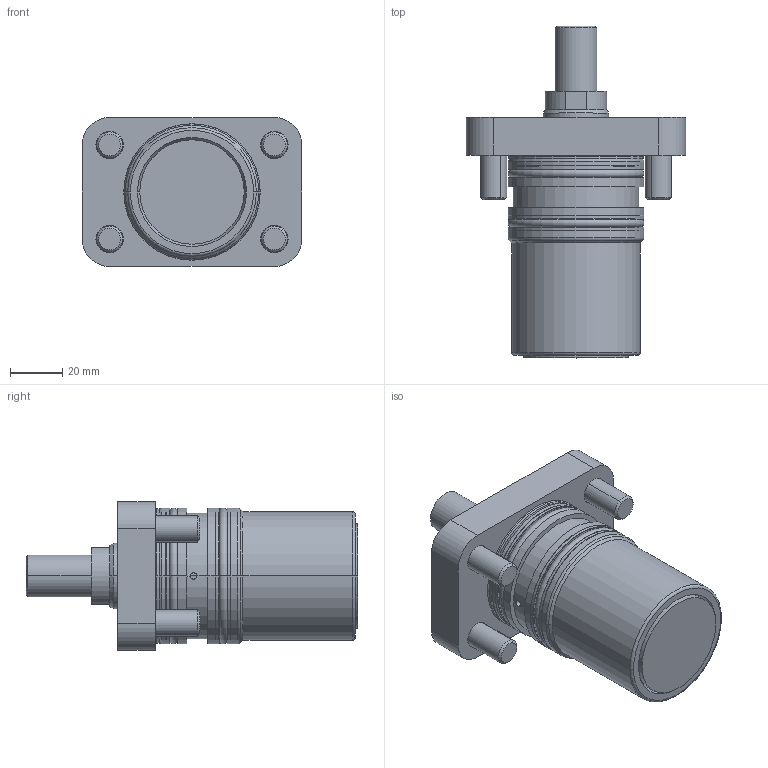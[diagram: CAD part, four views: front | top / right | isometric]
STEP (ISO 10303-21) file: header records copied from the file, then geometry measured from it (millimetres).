
FILE_DESCRIPTION (( 'STEP AP203' ), '1' );
FILE_NAME ('GERMA_Einbauzylinder_210-040-050-A.STEP', '2023-09-07T05:30:05', ( '' ), ( '' ), 'SwSTEP 2.0', 'SolidWorks 2016', '' );
FILE_SCHEMA (( 'CONFIG_CONTROL_DESIGN' ));
Length unit declared in the file: millimetre
Products named in the file (4): DIN7984-M10x25; GERMA_Einbauzylinder_210-040-050-A; Kolben 60x-040_Kolben DU.40-Hub50-AG; Gehaeuse 210-040_Gehaeuse 210-040-050
Assembly tree (6 placements, depth 2):
  GERMA_Einbauzylinder_210-040-050-A
    Gehaeuse 210-040_Gehaeuse 210-040-050
    Kolben 60x-040_Kolben DU.40-Hub50-AG
    DIN7984-M10x25  x4
Bounding box: 84 x 127 x 57 mm (x, y, z)
Volume: 193142.7 mm3; surface area: 56552.8 mm2
Topology: 6 solids, 6 shells, 370 faces, 883 edges, 553 vertices
Faces by surface type: plane 163, bspline 84, cylinder 73, cone 28, torus 22
Entity records: 12846 total; most frequent: CARTESIAN_POINT 5857, ORIENTED_EDGE 1414, DIRECTION 1198, EDGE_CURVE 707, VERTEX_POINT 454, AXIS2_PLACEMENT_3D 413, VECTOR 372, LINE 372
